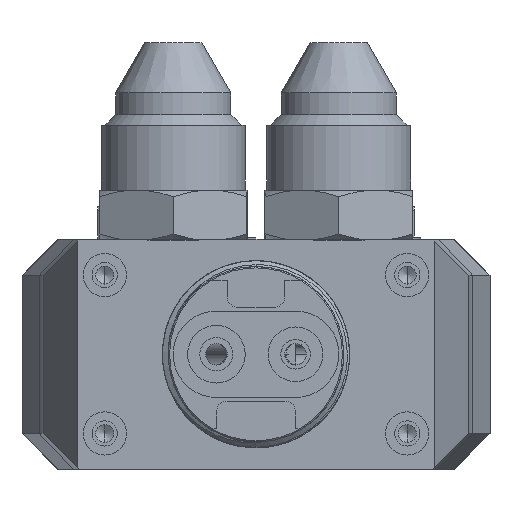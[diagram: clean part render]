
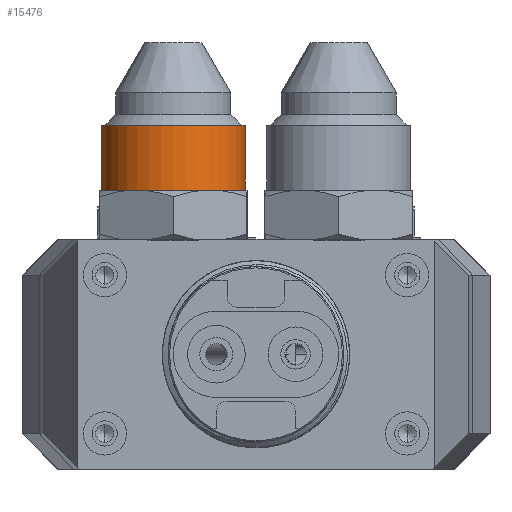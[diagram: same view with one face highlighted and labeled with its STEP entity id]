
A CAD part, front view. The second image highlights one B-rep face of the part: STEP entity #15476.
In plain terms, the highlighted cylindrical face has radius 10 mm (diameter 20 mm), a partial arc.
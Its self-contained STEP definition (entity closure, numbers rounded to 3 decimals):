
#1441 = CARTESIAN_POINT ( 'NONE',  ( -58.019, -126.235, 1021.303 ) ) ;
#2841 = CARTESIAN_POINT ( 'NONE',  ( -48.019, -126.235, 1021.303 ) ) ;
#3119 = DIRECTION ( 'NONE',  ( 0., 0., 1. ) ) ;
#5163 = AXIS2_PLACEMENT_3D ( 'NONE', #7164, #24719, #14301 ) ;
#5815 = CIRCLE ( 'NONE', #9697, 10. ) ;
#6150 = EDGE_CURVE ( 'NONE', #40230, #12530, #59528, .T. ) ;
#7164 = CARTESIAN_POINT ( 'NONE',  ( -58.019, -126.235, 1030.303 ) ) ;
#7598 = EDGE_CURVE ( 'NONE', #51843, #12530, #44321, .T. ) ;
#8419 = CARTESIAN_POINT ( 'NONE',  ( -48.019, -126.235, 1030.303 ) ) ;
#9697 = AXIS2_PLACEMENT_3D ( 'NONE', #1441, #20389, #38509 ) ;
#11994 = CARTESIAN_POINT ( 'NONE',  ( -48.019, -126.235, 1052.575 ) ) ;
#12470 = AXIS2_PLACEMENT_3D ( 'NONE', #38530, #33636, #38826 ) ;
#12530 = VERTEX_POINT ( 'NONE', #60271 ) ;
#13368 = ORIENTED_EDGE ( 'NONE', *, *, #27471, .T. ) ;
#13429 = ORIENTED_EDGE ( 'NONE', *, *, #7598, .T. ) ;
#14301 = DIRECTION ( 'NONE',  ( 1., 0., 0. ) ) ;
#15476 = ADVANCED_FACE ( 'NONE', ( #56901 ), #43140, .T. ) ;
#20389 = DIRECTION ( 'NONE',  ( 0., 0., 1. ) ) ;
#24112 = VECTOR ( 'NONE', #3119, 1000. ) ;
#24719 = DIRECTION ( 'NONE',  ( 0., 0., -1. ) ) ;
#25573 = EDGE_LOOP ( 'NONE', ( #37092, #13368, #42035, #13429 ) ) ;
#27059 = DIRECTION ( 'NONE',  ( 0., 0., 1. ) ) ;
#27471 = EDGE_CURVE ( 'NONE', #40230, #50413, #5815, .T. ) ;
#32948 = CARTESIAN_POINT ( 'NONE',  ( -68.019, -126.235, 1021.303 ) ) ;
#33636 = DIRECTION ( 'NONE',  ( 0., 0., 1. ) ) ;
#35295 = EDGE_CURVE ( 'NONE', #50413, #51843, #44791, .T. ) ;
#37092 = ORIENTED_EDGE ( 'NONE', *, *, #6150, .F. ) ;
#38509 = DIRECTION ( 'NONE',  ( 1., 0., 0. ) ) ;
#38530 = CARTESIAN_POINT ( 'NONE',  ( -58.019, -126.235, 1052.575 ) ) ;
#38826 = DIRECTION ( 'NONE',  ( 1., 0., 0. ) ) ;
#40230 = VERTEX_POINT ( 'NONE', #32948 ) ;
#42035 = ORIENTED_EDGE ( 'NONE', *, *, #35295, .T. ) ;
#43140 = CYLINDRICAL_SURFACE ( 'NONE', #12470, 10. ) ;
#44191 = VECTOR ( 'NONE', #27059, 1000. ) ;
#44321 = CIRCLE ( 'NONE', #5163, 10. ) ;
#44791 = LINE ( 'NONE', #11994, #24112 ) ;
#44829 = CARTESIAN_POINT ( 'NONE',  ( -68.019, -126.235, 1052.575 ) ) ;
#50413 = VERTEX_POINT ( 'NONE', #2841 ) ;
#51843 = VERTEX_POINT ( 'NONE', #8419 ) ;
#56901 = FACE_OUTER_BOUND ( 'NONE', #25573, .T. ) ;
#59528 = LINE ( 'NONE', #44829, #44191 ) ;
#60271 = CARTESIAN_POINT ( 'NONE',  ( -68.019, -126.235, 1030.303 ) ) ;
